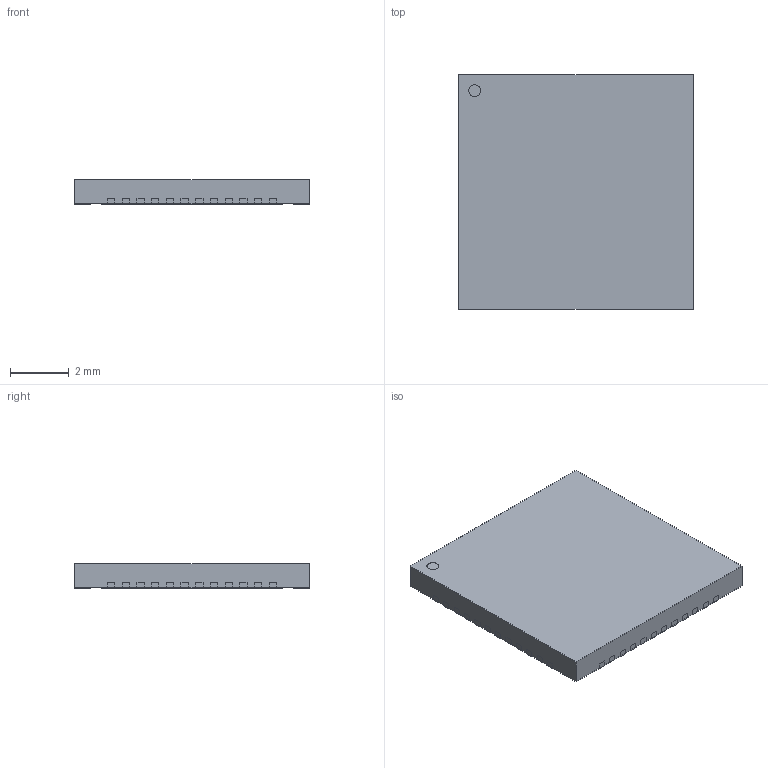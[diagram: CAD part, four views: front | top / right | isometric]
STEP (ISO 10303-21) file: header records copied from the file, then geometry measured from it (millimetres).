
FILE_DESCRIPTION(('Open CASCADE Model'),'2;1');
FILE_NAME('Open CASCADE Shape Model','2026-10-09T15:40:50',('Author'),( 'Open CASCADE'),'Open CASCADE STEP processor 7.7','Open CASCADE 7.7' ,'Unknown');
FILE_SCHEMA(('AUTOMOTIVE_DESIGN { 1 0 10303 214 1 1 1 1 }'));
Length unit declared in the file: millimetre
Products named in the file (51): FT232HQ nominal package body; Exposed pad 6.2mm; West terminal 1; East terminal 1; North terminal 1; South terminal 1; West terminal 2; East terminal 2; North terminal 2; South terminal 2; West terminal 3; East terminal 3; North terminal 3; South terminal 3; West terminal 4; East terminal 4; North terminal 4; South terminal 4; West terminal 5; East terminal 5; North terminal 5; South terminal 5; West terminal 6; East terminal 6; North terminal 6; South terminal 6; West terminal 7; East terminal 7; North terminal 7; South terminal 7; West terminal 8; East terminal 8; North terminal 8; South terminal 8; West terminal 9; East terminal 9; North terminal 9; South terminal 9; West terminal 10; East terminal 10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
Bounding box: 8 x 8 x 0.85 mm (x, y, z)
Surface area: 265.2 mm2
Topology: 51 solids, 51 shells, 303 faces, 603 edges, 402 vertices
Faces by surface type: plane 302, cylinder 1
Full cylindrical faces by diameter (mm): 0.4 x1
Entity records: 16421 total; most frequent: CARTESIAN_POINT 2515, DIRECTION 2419, LINE 1805, VECTOR 1805, ORIENTED_EDGE 1206, PCURVE 1206, DEFINITIONAL_REPRESENTATION 1206, EDGE_CURVE 603
